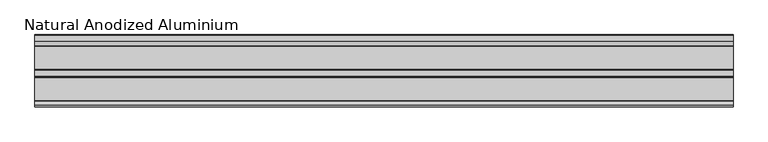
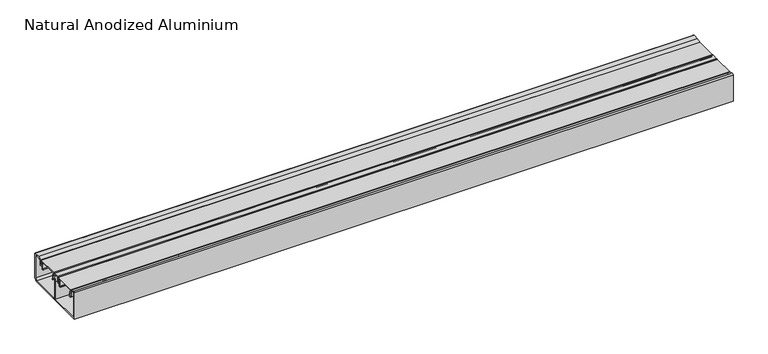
"""IFC4 building model written with IfcOpenShell, lengths in millimetres: proxy geometry, Electrical_Installations_Hager_GBA-Flat-Lid-End-Cap : Natural Anodized Aluminium."""

from ifc_helpers import new_model, si_unit, point, frame, frame_2d, origin, place, context, project, spatial, polyline, circle_curve, trimmed, segment, composite_curve, outline, extrude, source, transform, mapped, element, save


def natural_anodized_aluminium_aa0bdabd(model_context):
    return source(origin(), model_context, "Body", "SweptSolid", [
        extrude(outline(composite_curve([segment(polyline([(-64.6976563, 54.0894343), (-64.6976563, 2.0), (-2.2476563, 2.0), (-2.2476563, 38.3324137), (-0.2476563, 49.6749773), (-0.2476563, 52.0), (-9.8476563, 52.0), (-9.8476563, 41.5012147), (-14.5382813, 41.5012147), (-14.5382813, 45.748101), (-13.5382813, 45.748101), (-13.5382813, 42.9887147), (-11.6476563, 42.9887147), (-11.6476563, 53.0031102)]), True, "CONTINUOUS"), segment(trimmed(circle_curve(frame_2d((-10.6507665, 53.0031102)), 0.9968898), [point((-11.6476563, 53.0031102))], [point((-10.6507665, 54.0))], False, "CARTESIAN"), True, "CONTINUOUS"), segment(polyline([(-10.6507665, 54.0), (0.7441474, 54.0)]), True, "CONTINUOUS"), segment(trimmed(circle_curve(frame_2d((0.7441474, 52.9918037)), 1.0081963), [point((0.7441474, 54.0))], [point((1.7523437, 52.9918037))], False, "CARTESIAN"), True, "CONTINUOUS"), segment(polyline([(1.7523437, 52.9918037), (1.7523437, 49.5), (0.6591165, 43.3), (3.2523437, 43.3), (3.2523437, 45.7537431), (4.2523437, 45.7537431), (4.2523437, 41.5), (0.3417279, 41.5), (-0.2476563, 38.1574364), (-0.2476563, 2.0), (60.5496526, 2.0), (64.5023437, 5.9526912), (64.5023437, 54.2), (54.8614746, 54.2), (48.5523437, 52.1500391), (48.5523437, 41.5), (44.2523437, 41.5), (44.2523437, 45.7556921), (45.2523437, 45.7556921), (45.2523437, 42.9887147), (46.7523437, 42.9887147), (46.7523437, 53.9835468), (54.4971904, 56.5), (64.8989144, 56.5)]), True, "CONTINUOUS"), segment(trimmed(circle_curve(frame_2d((64.8989144, 54.5965707)), 1.9034293), [point((64.8989144, 56.5))], [point((66.8023437, 54.5965707))], False, "CARTESIAN"), True, "CONTINUOUS"), segment(polyline([(66.8023437, 54.5965707), (66.8023437, 5.0), (61.8023437, 0.0), (-66.9976563, 0.0), (-66.9976563, 54.4045249)]), True, "CONTINUOUS"), segment(trimmed(circle_curve(frame_2d((-64.9278927, 54.4045249)), 2.0697636), [point((-66.9976563, 54.4045249))], [point((-64.2989994, 56.3764312))], False, "CARTESIAN"), True, "CONTINUOUS"), segment(polyline([(-64.2989994, 56.3764312), (-56.8429688, 53.998505), (-56.8429688, 42.9887147), (-54.6789063, 42.9887147), (-54.6789063, 45.7565885), (-53.6789063, 45.7565885), (-53.6789063, 41.5012147), (-58.4476563, 41.5012147), (-58.4476563, 52.0961433), (-64.6976563, 54.0894343)]), True, "CONTINUOUS")], self_intersect=False)), frame((0.0, 0.0, 0.0), z_axis=(1.0, 0.0, 0.0), x_axis=(0.0, 1.0, 0.0)), (0.0, 0.0, 1.0), 1288.5),
        extrude(outline(composite_curve([segment(polyline([(-13.1613464, 52.5816445), (-55.0613464, 52.5816445), (-55.0613464, 49.2816445), (-53.7229555, 49.2816445)]), True, "CONTINUOUS"), segment(trimmed(circle_curve(frame_2d((-53.7229555, 47.1700354)), 2.1116091), [point((-53.7229555, 49.2816445))], [point((-51.6113464, 47.1700354))], False, "CARTESIAN"), True, "CONTINUOUS"), segment(polyline([(-51.6113464, 47.1700354), (-51.6113464, 37.6816445), (-49.7113464, 37.6816445), (-49.7113464, 36.8816445), (-52.6113464, 36.8816445), (-52.6113464, 47.3262929)]), True, "CONTINUOUS"), segment(trimmed(circle_curve(frame_2d((-53.566698, 47.3262929)), 0.9553516), [point((-52.6113464, 47.3262929))], [point((-53.566698, 48.2816445))], True, "CARTESIAN"), True, "CONTINUOUS"), segment(polyline([(-53.566698, 48.2816445), (-55.3644879, 48.2816445), (-55.3644879, 43.8012242), (-56.3660339, 43.8012242), (-56.3660339, 53.0900381)]), True, "CONTINUOUS"), segment(trimmed(circle_curve(frame_2d((-55.456072, 53.0900381)), 0.9099619), [point((-56.3660339, 53.0900381))], [point((-55.456072, 54.0))], False, "CARTESIAN"), True, "CONTINUOUS"), segment(polyline([(-55.456072, 54.0), (-12.9820268, 54.0)]), True, "CONTINUOUS"), segment(trimmed(circle_curve(frame_2d((-12.9820268, 52.9918196)), 1.0081804), [point((-12.9820268, 54.0))], [point((-11.9738464, 52.9918196))], False, "CARTESIAN"), True, "CONTINUOUS"), segment(polyline([(-11.9738464, 52.9918196), (-11.9738464, 43.8012242), (-12.858205, 43.8012242), (-12.858205, 48.2816445), (-14.6025892, 48.2816445)]), True, "CONTINUOUS"), segment(trimmed(circle_curve(frame_2d((-14.6025892, 47.2728873)), 1.0087572), [point((-14.6025892, 48.2816445))], [point((-15.6113464, 47.2728873))], True, "CARTESIAN"), True, "CONTINUOUS"), segment(polyline([(-15.6113464, 47.2728873), (-15.6113464, 36.8816445), (-18.5113464, 36.8816445), (-18.5113464, 37.6816445), (-16.6113464, 37.6816445), (-16.6113464, 47.3197896)]), True, "CONTINUOUS"), segment(trimmed(circle_curve(frame_2d((-14.6494915, 47.3197896)), 1.9618549), [point((-16.6113464, 47.3197896))], [point((-14.6494915, 49.2816445))], False, "CARTESIAN"), True, "CONTINUOUS"), segment(polyline([(-14.6494915, 49.2816445), (-13.1613464, 49.2816445), (-13.1613464, 52.5816445)]), True, "CONTINUOUS")], self_intersect=False)), frame((0.0, 0.0, 0.0), z_axis=(1.0, 0.0, 0.0), x_axis=(0.0, 1.0, 0.0)), (0.0, 0.0, 1.0), 1288.5),
        extrude(outline(composite_curve([segment(polyline([(45.1923672, 52.5816445), (3.2923672, 52.5816445), (3.2923672, 49.2816445), (4.6307581, 49.2816445)]), True, "CONTINUOUS"), segment(trimmed(circle_curve(frame_2d((4.6307581, 47.1700354)), 2.1116091), [point((4.6307581, 49.2816445))], [point((6.7423672, 47.1700354))], False, "CARTESIAN"), True, "CONTINUOUS"), segment(polyline([(6.7423672, 47.1700354), (6.7423672, 37.6816445), (8.6423672, 37.6816445), (8.6423672, 36.8816445), (5.7423672, 36.8816445), (5.7423672, 47.3262929)]), True, "CONTINUOUS"), segment(trimmed(circle_curve(frame_2d((4.7870156, 47.3262929)), 0.9553516), [point((5.7423672, 47.3262929))], [point((4.7870156, 48.2816445))], True, "CARTESIAN"), True, "CONTINUOUS"), segment(polyline([(4.7870156, 48.2816445), (2.9892258, 48.2816445), (2.9892258, 43.8231023), (1.9876797, 43.8231023), (1.9876797, 53.0900381)]), True, "CONTINUOUS"), segment(trimmed(circle_curve(frame_2d((2.8976417, 53.0900381)), 0.9099619), [point((1.9876797, 53.0900381))], [point((2.8976417, 54.0))], False, "CARTESIAN"), True, "CONTINUOUS"), segment(polyline([(2.8976417, 54.0), (45.3716869, 54.0)]), True, "CONTINUOUS"), segment(trimmed(circle_curve(frame_2d((45.3716869, 52.9918196)), 1.0081804), [point((45.3716869, 54.0))], [point((46.3798672, 52.9918196))], False, "CARTESIAN"), True, "CONTINUOUS"), segment(polyline([(46.3798672, 52.9918196), (46.3798672, 43.9733035), (45.4955087, 43.9733035), (45.4955087, 48.2816445), (43.7511244, 48.2816445)]), True, "CONTINUOUS"), segment(trimmed(circle_curve(frame_2d((43.7511244, 47.2728873)), 1.0087572), [point((43.7511244, 48.2816445))], [point((42.7423672, 47.2728873))], True, "CARTESIAN"), True, "CONTINUOUS"), segment(polyline([(42.7423672, 47.2728873), (42.7423672, 36.8816445), (39.8423672, 36.8816445), (39.8423672, 37.6816445), (41.7423672, 37.6816445), (41.7423672, 47.3197896)]), True, "CONTINUOUS"), segment(trimmed(circle_curve(frame_2d((43.7042221, 47.3197896)), 1.9618549), [point((41.7423672, 47.3197896))], [point((43.7042221, 49.2816445))], False, "CARTESIAN"), True, "CONTINUOUS"), segment(polyline([(43.7042221, 49.2816445), (45.1923672, 49.2816445), (45.1923672, 52.5816445)]), True, "CONTINUOUS")], self_intersect=False)), frame((0.0, 0.0, 0.0), z_axis=(1.0, 0.0, 0.0), x_axis=(0.0, 1.0, 0.0)), (0.0, 0.0, 1.0), 1288.5),
    ])


if __name__ == "__main__":
    model = new_model("IFC4")
    model_context = context("Model", 3, world=origin())
    ifc_project = project(units=[si_unit("LENGTHUNIT", "METRE", prefix="MILLI")], contexts=[model_context])
    site = spatial("IfcSite", under=ifc_project)
    building = spatial("IfcBuilding", under=site)
    placement = place(None, origin())
    natural_anodized_aluminium_shape = natural_anodized_aluminium_aa0bdabd(model_context)
    element("IfcBuildingElementProxy", 1, Name="Electrical_Installations_Hager_GBA-Flat-Lid-End-Cap : Natural Anodized Aluminium", ObjectType="Electrical_Installations_Hager_GBA-Flat-Lid-End-Cap : Natural Anodized Aluminium", at=placement, inside=building, context=model_context, shape_type="MappedRepresentation", body=[
        mapped(natural_anodized_aluminium_shape, transform((0.0, 0.0, 0.0), x_axis=(1.0, 0.0, 0.0), y_axis=(0.0, 1.0, 0.0), z_axis=(0.0, 0.0, 1.0))),
    ])
    save(model, "model.ifc")
